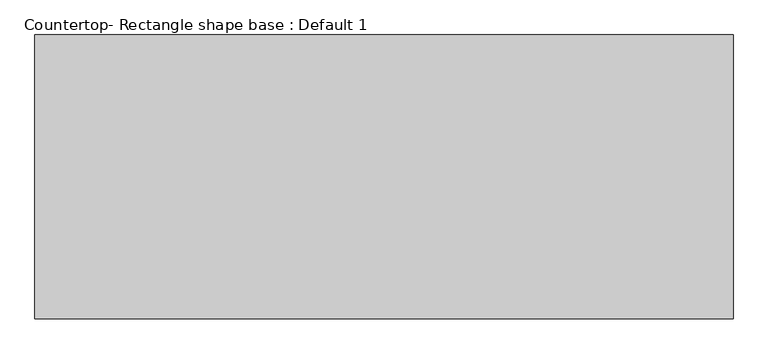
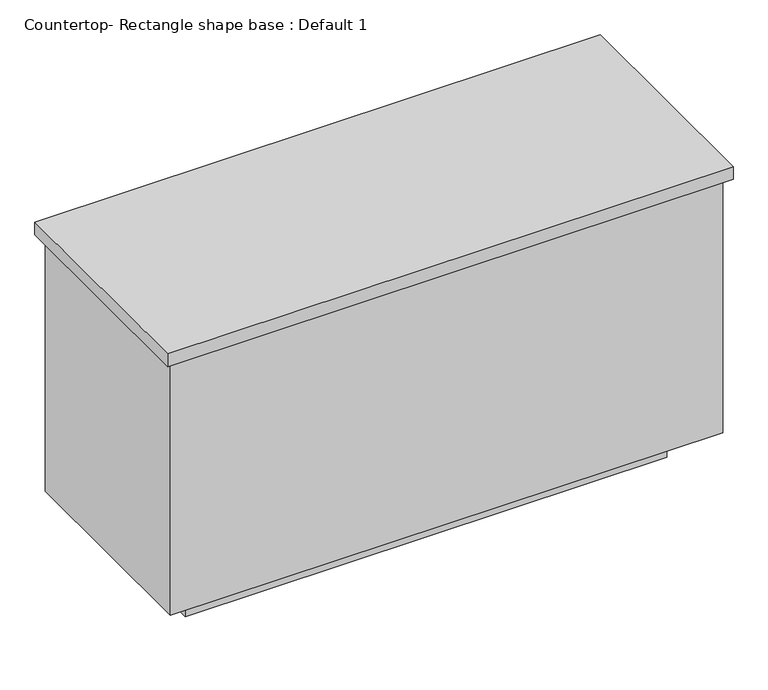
"""IFC4 building model written with IfcOpenShell, lengths in millimetres: proxy geometry, Countertop- Rectangle shape base : Default 1."""

from ifc_helpers import new_model, si_unit, frame, origin, origin_with_axes, place, context, project, spatial, polyline, outline, extrude, source, transform, mapped, element, save


def countertop_rectangle_shape_base_default_1_f7c01886(model_context):
    return source(origin(), model_context, "Body", "SweptSolid", [
        extrude(outline(polyline([(-50.8, 50.8), (-50.8, 711.2), (1574.8, 711.2), (1574.8, 50.8), (-50.8, 50.8)])), frame((0.0, 0.0, 876.3), z_axis=(0.0, 0.0, 1.0), x_axis=(1.0, 0.0, 0.0)), (0.0, 0.0, 1.0), 38.1),
        extrude(outline(polyline([(1555.75, 692.15), (1555.75, 69.85), (-31.75, 69.85), (-31.75, 692.15), (1555.75, 692.15)])), frame((0.0, 0.0, 101.6), z_axis=(0.0, 0.0, 1.0), x_axis=(1.0, 0.0, 0.0)), (0.0, 0.0, 1.0), 774.7),
        extrude(outline(polyline([(1454.15, 590.55), (1454.15, 171.45), (69.85, 171.45), (69.85, 590.55), (1454.15, 590.55)])), origin_with_axes(), (0.0, 0.0, 1.0), 101.6),
    ])


if __name__ == "__main__":
    model = new_model("IFC4")
    model_context = context("Model", 3, world=origin())
    ifc_project = project(units=[si_unit("LENGTHUNIT", "METRE", prefix="MILLI")], contexts=[model_context])
    site = spatial("IfcSite", under=ifc_project)
    building = spatial("IfcBuilding", under=site)
    placement = place(None, origin())
    countertop_rectangle_shape_base_default_1_shape = countertop_rectangle_shape_base_default_1_f7c01886(model_context)
    element("IfcBuildingElementProxy", 1, Name="Countertop- Rectangle shape base : Default 1", ObjectType="Countertop- Rectangle shape base : Default 1", at=placement, inside=building, context=model_context, shape_type="MappedRepresentation", body=[
        mapped(countertop_rectangle_shape_base_default_1_shape, transform((0.0, 0.0, 0.0), x_axis=(1.0, 0.0, 0.0), y_axis=(0.0, 1.0, 0.0), z_axis=(0.0, 0.0, 1.0))),
    ])
    save(model, "model.ifc")
